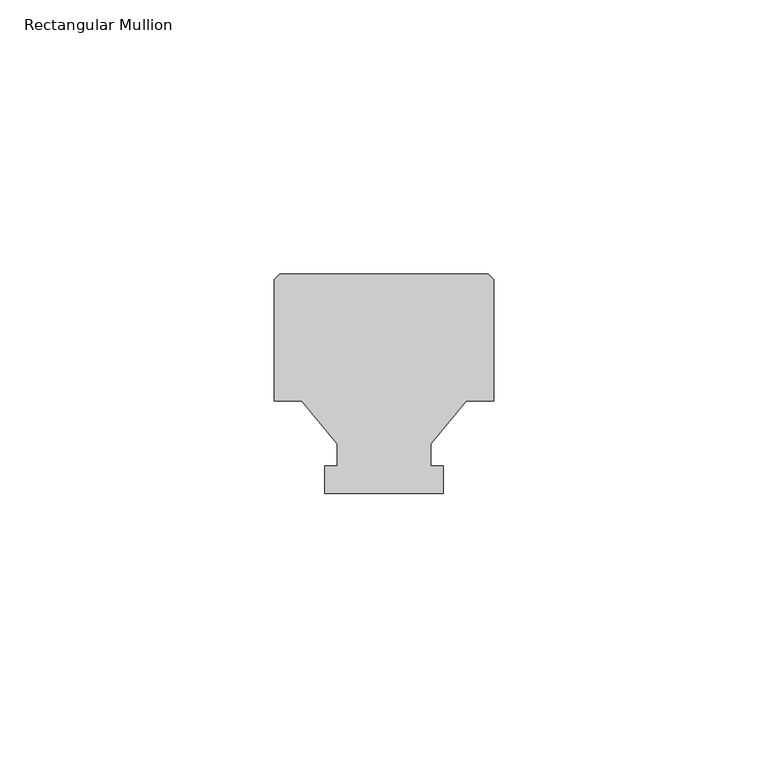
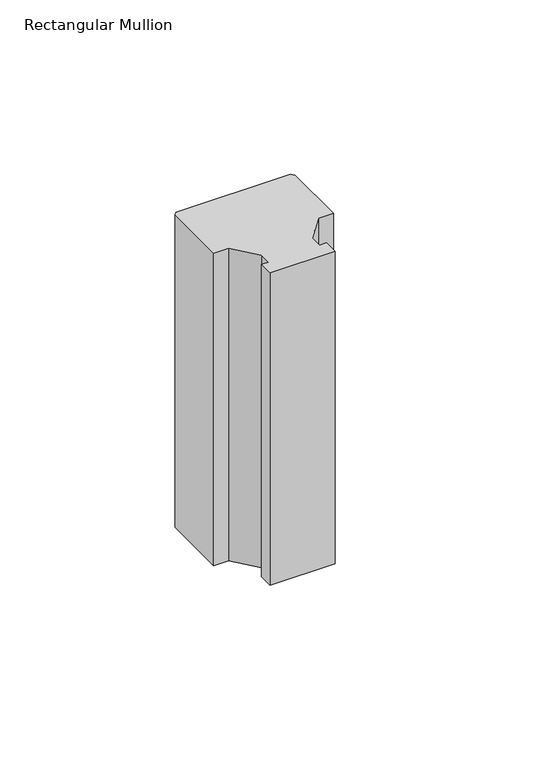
"""IFC4 building model written with IfcOpenShell, lengths in millimetres: member geometry, Rectangular Mullion : Batten_Timber_Modinex_Austratus_Grid_Fin_40x40_AlaskanYellowCedar."""

import ifcopenshell
import ifcopenshell.guid

model = None  # the IFC model being written
_history = None  # IfcOwnerHistory: only IFC2X3 demands one
_inside = {}  # id of a spatial element -> (the spatial element, [elements in it])
_under = {}  # id of a project, library or spatial element -> (it, [spatial elements below it])
_declared = {}  # id of a project -> (the project, [libraries it declares])
_typed = {}  # id of a type object -> (the type object, [elements of that type])
_made_of = {}  # id of a material, layer set ... -> (it, [elements and type objects made of it])


def new_model(schema):
    """Start an empty IFC model of exactly this schema.

    Asked for "IFC4X3", IfcOpenShell would pick the latest addendum, in which some entities
    have other attributes; the version numbers below select the first issue.
    IFC2X3 requires an IfcOwnerHistory on every rooted entity: one is made here for all.
    """
    global model, _history
    if schema == "IFC4X3":
        model = ifcopenshell.file(schema_version=(4, 3, 0, 0))
    else:
        model = ifcopenshell.file(schema=schema)
    _inside.clear()
    _under.clear()
    _declared.clear()
    _typed.clear()
    _made_of.clear()
    _history = None
    if model.schema == "IFC2X3":
        org = make("IfcOrganization", Name="unknown")
        user = make(
            "IfcPersonAndOrganization",
            ThePerson=make("IfcPerson", FamilyName="unknown"),
            TheOrganization=org,
        )
        app = make(
            "IfcApplication",
            ApplicationDeveloper=org,
            Version="unknown",
            ApplicationFullName="unknown",
            ApplicationIdentifier="unknown",
        )
        _history = make(
            "IfcOwnerHistory",
            OwningUser=user,
            OwningApplication=app,
            ChangeAction="ADDED",
            CreationDate=0,
        )
    return model


def make(cls, **values):
    """One entity of the class cls with the attributes given. An attribute that is None is left unset."""
    return model.create_entity(
        cls, **{name: value for name, value in values.items() if value is not None}
    )


def rooted(cls, **values):
    """An entity with a GlobalId (a new one), such as an element, a storey or a relation."""
    return make(cls, GlobalId=ifcopenshell.guid.new(), OwnerHistory=_history, **values)


def si_unit(unit_type, name, prefix=None):
    """IfcSIUnit, for example si_unit("LENGTHUNIT", "METRE", prefix="MILLI")."""
    return make("IfcSIUnit", UnitType=unit_type, Prefix=prefix, Name=name)


def assignment(units):
    """IfcUnitAssignment: the units of a project."""
    return None if units is None else make("IfcUnitAssignment", Units=units)


def point(xyz):
    """IfcCartesianPoint."""
    return None if xyz is None else make("IfcCartesianPoint", Coordinates=xyz)


def direction(xyz):
    """IfcDirection."""
    return None if xyz is None else make("IfcDirection", DirectionRatios=xyz)


def frame(location, z_axis=None, x_axis=None):
    """IfcAxis2Placement3D, a coordinate frame: its origin and axes. An axis left out is left unset."""
    return make(
        "IfcAxis2Placement3D",
        Location=point(location),
        Axis=direction(z_axis),
        RefDirection=direction(x_axis),
    )


def origin():
    """The frame at (0, 0, 0) with its axes left unset."""
    return frame((0.0, 0.0, 0.0))


def place(relative_to, where):
    """IfcLocalPlacement: puts the frame where relative to a parent placement (None: the world)."""
    return make(
        "IfcLocalPlacement", PlacementRelTo=relative_to, RelativePlacement=where
    )


def context(
    kind, dimensions, precision=None, world=None, true_north=None, identifier=None
):
    """IfcGeometricRepresentationContext, for example the 3D "Model" context."""
    return make(
        "IfcGeometricRepresentationContext",
        ContextIdentifier=identifier,
        ContextType=kind,
        CoordinateSpaceDimension=dimensions,
        Precision=precision,
        WorldCoordinateSystem=world,
        TrueNorth=true_north,
    )


def project(units=None, contexts=None):
    """IfcProject with its units and contexts."""
    return rooted(
        "IfcProject",
        Name="project",
        RepresentationContexts=contexts,
        UnitsInContext=assignment(units),
    )


def spatial(cls, under=None, at=None, **own):
    """A site, building, storey or space (cls), placed at a placement, below another one or the project."""
    s = rooted(cls, ObjectPlacement=at, **own)
    if under is not None:
        _under.setdefault(under.id(), (under, []))[1].append(s)
    return s


def polyline(points):
    """IfcPolyline through the points."""
    return make("IfcPolyline", Points=[point(p) for p in points])


def outline(outer, holes=None, kind="AREA"):
    """IfcArbitraryClosedProfileDef: a profile drawn as a closed curve; with holes, ...WithVoids."""
    if holes is None:
        return make("IfcArbitraryClosedProfileDef", ProfileType=kind, OuterCurve=outer)
    return make(
        "IfcArbitraryProfileDefWithVoids",
        ProfileType=kind,
        OuterCurve=outer,
        InnerCurves=holes,
    )


def extrude(swept, where, along, depth):
    """IfcExtrudedAreaSolid: the profile swept, set in the frame where, extruded along a direction by depth."""
    return make(
        "IfcExtrudedAreaSolid",
        SweptArea=swept,
        Position=where,
        ExtrudedDirection=direction(along),
        Depth=depth,
    )


def shape(context_of_items, identifier, shape_type, items):
    """IfcShapeRepresentation: the items that make up one representation, for example the "Body"."""
    return make(
        "IfcShapeRepresentation",
        ContextOfItems=context_of_items,
        RepresentationIdentifier=identifier,
        RepresentationType=shape_type,
        Items=items,
    )


def source(mapping_origin, context_of_items, identifier, shape_type, items):
    """IfcRepresentationMap: a shape defined once, which mapped items show again and again."""
    return make(
        "IfcRepresentationMap",
        MappingOrigin=mapping_origin,
        MappedRepresentation=shape(context_of_items, identifier, shape_type, items),
    )


def transform(
    local_origin,
    x_axis=None,
    y_axis=None,
    z_axis=None,
    scale=None,
    scale2=None,
    scale3=None,
    uniform=True,
):
    """IfcCartesianTransformationOperator3D, or its non-uniform kind. x_axis, y_axis, z_axis: its Axis1, 2, 3."""
    if uniform:
        return make(
            "IfcCartesianTransformationOperator3D",
            Axis1=direction(x_axis),
            Axis2=direction(y_axis),
            LocalOrigin=point(local_origin),
            Scale=scale,
            Axis3=direction(z_axis),
        )
    return make(
        "IfcCartesianTransformationOperator3DnonUniform",
        Axis1=direction(x_axis),
        Axis2=direction(y_axis),
        LocalOrigin=point(local_origin),
        Scale=scale,
        Axis3=direction(z_axis),
        Scale2=scale2,
        Scale3=scale3,
    )


def mapped(mapping_source, mapping_target):
    """IfcMappedItem: shows the shape of a source again, moved by a transform."""
    return make(
        "IfcMappedItem", MappingSource=mapping_source, MappingTarget=mapping_target
    )


def made_of(thing, what):
    """Note that an element or type object is made of a material, layer set ...; save() writes the relation."""
    if what is not None:
        _made_of.setdefault(what.id(), (what, []))[1].append(thing)
    return thing


def element(
    cls,
    number,
    at=None,
    inside=None,
    cuts=None,
    type_object=None,
    material=None,
    context=None,
    identifier="Body",
    shape_type=None,
    held_by="IfcProductDefinitionShape",
    body=None,
    shapes=None,
    **own,
):
    """One element of the class cls, such as IfcWall. Its Tag is "e" and its number.

    at: its placement. inside: the storey or other place that contains it. cuts: it is an
    opening in that element (IfcRelVoidsElement). A single representation is given by context,
    identifier, shape_type and body (its items); several are given by shapes. held_by: the class
    of the entity that holds the representations. save() writes the other relations.
    """
    e = rooted(cls, Tag="e%d" % number, ObjectPlacement=at, **own)
    if body is not None:
        shapes = [shape(context, identifier, shape_type, body)]
    if shapes is not None:
        e.Representation = make(held_by, Representations=shapes)
    if inside is not None:
        _inside.setdefault(inside.id(), (inside, []))[1].append(e)
    if cuts is not None:
        rooted(
            "IfcRelVoidsElement", RelatingBuildingElement=cuts, RelatedOpeningElement=e
        )
    if type_object is not None:
        _typed.setdefault(type_object.id(), (type_object, []))[1].append(e)
    return made_of(e, material)


def aggregate(whole, parts):
    """IfcRelAggregates: a whole, such as a stair, and the parts it consists of."""
    return rooted("IfcRelAggregates", RelatingObject=whole, RelatedObjects=parts)


def save(model, path):
    """Write the relations noted so far, then the file.

    IfcRelAggregates (storeys below a building ...), IfcRelContainedInSpatialStructure (elements
    in a storey), IfcRelDefinesByType, IfcRelAssociatesMaterial and IfcRelDeclares: one each for
    every whole, place, type object, material and project.
    """
    for whole, parts in _under.values():
        aggregate(whole, parts)
    for where, things in _inside.values():
        rooted(
            "IfcRelContainedInSpatialStructure",
            RelatedElements=things,
            RelatingStructure=where,
        )
    for kind, things in _typed.values():
        rooted("IfcRelDefinesByType", RelatedObjects=things, RelatingType=kind)
    for what, things in _made_of.values():
        rooted("IfcRelAssociatesMaterial", RelatedObjects=things, RelatingMaterial=what)
    for by, libraries in _declared.values():
        rooted("IfcRelDeclares", RelatingContext=by, RelatedDefinitions=libraries)
    model.write(path)


def rectangular_mullion_c1c7f7ba(model_context):
    return source(origin(), model_context, "Body", "SweptSolid", [
        extrude(outline(polyline([(-20.0, 16.8079815), (-20.0, 39.0), (-19.0, 40.0), (19.0, 40.0), (20.0, 39.0), (20.0, 16.8079815), (15.0, 16.8079815), (8.5, 9.0), (8.5, 5.0), (10.812195, 5.0), (10.812195, 0.0), (-10.812195, 0.0), (-10.812195, 5.0), (-8.5, 5.0), (-8.5, 9.0), (-15.0, 16.8079815), (-20.0, 16.8079815)])), frame((0.0, 0.0, -110.0), z_axis=(0.0, 0.0, 1.0), x_axis=(1.0, 0.0, 0.0)), (0.0, 0.0, 1.0), 110.0),
    ])


if __name__ == "__main__":
    model = new_model("IFC4")
    model_context = context("Model", 3, world=origin())
    ifc_project = project(units=[si_unit("LENGTHUNIT", "METRE", prefix="MILLI")], contexts=[model_context])
    site = spatial("IfcSite", under=ifc_project)
    building = spatial("IfcBuilding", under=site)
    placement = place(None, origin())
    rectangular_mullion_shape = rectangular_mullion_c1c7f7ba(model_context)
    element("IfcMember", 1, ObjectType="Rectangular Mullion : Batten_Timber_Modinex_Austratus_Grid_Fin_40x40_AlaskanYellowCedar", at=placement, inside=building, context=model_context, shape_type="MappedRepresentation", body=[
        mapped(rectangular_mullion_shape, transform((0.0, 0.0, 0.0), x_axis=(1.0, 0.0, 0.0), y_axis=(0.0, 1.0, 0.0), z_axis=(0.0, 0.0, 1.0))),
    ])
    save(model, "model.ifc")
